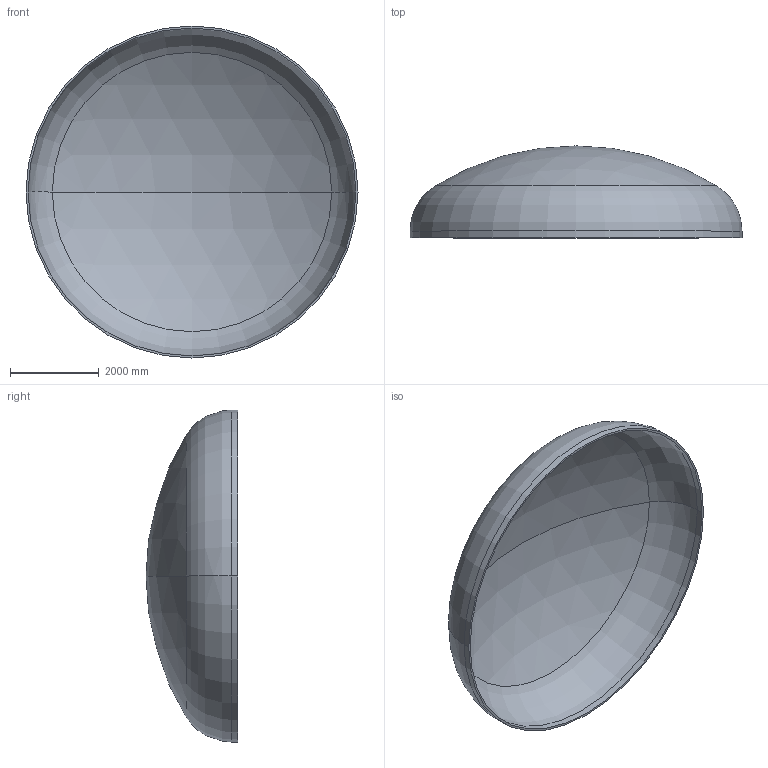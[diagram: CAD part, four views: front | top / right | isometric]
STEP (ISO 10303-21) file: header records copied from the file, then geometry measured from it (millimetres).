
FILE_DESCRIPTION (( 'STEP AP203' ), '1' );
FILE_NAME ('DIN 28013 Korbbogenform_-_Boden DIN 28013 - 7500 x 150 - I - s=47.step', '2016-07-04T10:54:23', ( '' ), ( '' ), 'SwSTEP 2.0', 'SolidWorks 2013', '' );
FILE_SCHEMA (( 'CONFIG_CONTROL_DESIGN' ));
Length unit declared in the file: millimetre
Products named in the file (1): DIN 28013 Korbbogenform_-_Boden DIN 28013 - 7500 x 150 - I - s=47
Bounding box: 7500 x 2076.11 x 7500 mm (x, y, z)
Volume: 3017177440.4 mm3; surface area: 129495577.7 mm2
Topology: 1 solids, 1 shells, 13 faces, 24 edges, 14 vertices
Faces by surface type: torus 4, cylinder 4, sphere 4, plane 1
Entity records: 407 total; most frequent: DIRECTION 72, CARTESIAN_POINT 52, ORIENTED_EDGE 48, AXIS2_PLACEMENT_3D 34, EDGE_CURVE 24, CIRCLE 20, VERTEX_POINT 14, EDGE_LOOP 14
